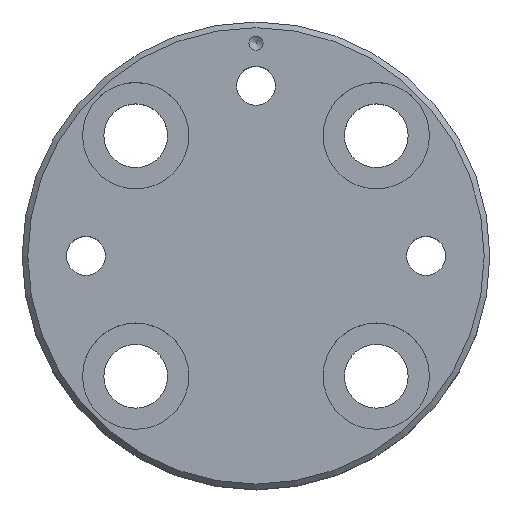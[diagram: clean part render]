
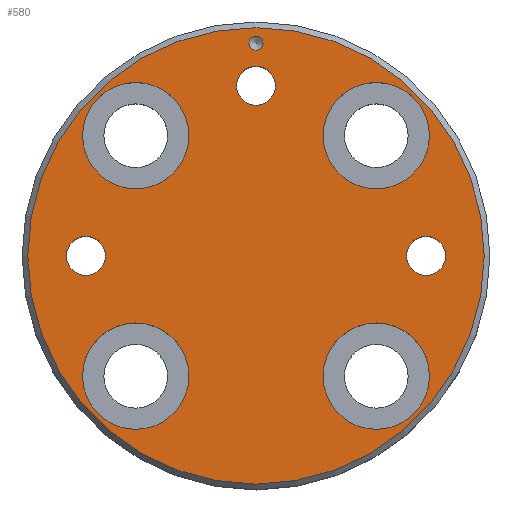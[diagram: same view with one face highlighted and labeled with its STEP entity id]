
A CAD part, top view. The second image highlights one B-rep face of the part: STEP entity #580.
In plain terms, the highlighted planar face has unit normal (0, 0, 1).
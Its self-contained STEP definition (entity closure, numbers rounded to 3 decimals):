
#143=CARTESIAN_POINT('',(24.471,16.971,20.0));
#144=VERTEX_POINT('',#143);
#145=CARTESIAN_POINT('',(16.971,16.971,20.0));
#146=DIRECTION('',(0.0,0.0,-1.0));
#147=DIRECTION('',(1.0,0.0,0.0));
#148=AXIS2_PLACEMENT_3D('',#145,#146,#147);
#149=CIRCLE('',#148,7.5);
#150=EDGE_CURVE('',#144,#144,#149,.T.);
#253=CARTESIAN_POINT('',(-16.971,24.471,20.0));
#254=VERTEX_POINT('',#253);
#255=CARTESIAN_POINT('',(-16.971,16.971,20.0));
#256=DIRECTION('',(0.0,0.0,-1.0));
#257=DIRECTION('',(0.0,1.0,0.0));
#258=AXIS2_PLACEMENT_3D('',#255,#256,#257);
#259=CIRCLE('',#258,7.5);
#260=EDGE_CURVE('',#254,#254,#259,.T.);
#363=CARTESIAN_POINT('',(-24.471,-16.971,20.0));
#364=VERTEX_POINT('',#363);
#365=CARTESIAN_POINT('',(-16.971,-16.971,20.0));
#366=DIRECTION('',(0.0,0.0,-1.0));
#367=DIRECTION('',(-1.0,0.0,0.0));
#368=AXIS2_PLACEMENT_3D('',#365,#366,#367);
#369=CIRCLE('',#368,7.5);
#370=EDGE_CURVE('',#364,#364,#369,.T.);
#473=CARTESIAN_POINT('',(16.971,-24.471,20.0));
#474=VERTEX_POINT('',#473);
#475=CARTESIAN_POINT('',(16.971,-16.971,20.0));
#476=DIRECTION('',(0.0,0.0,-1.0));
#477=DIRECTION('',(0.0,-1.0,0.0));
#478=AXIS2_PLACEMENT_3D('',#475,#476,#477);
#479=CIRCLE('',#478,7.5);
#480=EDGE_CURVE('',#474,#474,#479,.T.);
#508=CARTESIAN_POINT('',(0.0,0.0,20.0));
#509=DIRECTION('',(0.0,0.0,-1.0));
#510=DIRECTION('',(-1.0,0.0,0.0));
#511=AXIS2_PLACEMENT_3D('',#508,#509,#510);
#512=PLANE('',#511);
#513=CARTESIAN_POINT('',(32.2,0.,20.0));
#514=VERTEX_POINT('',#513);
#515=CARTESIAN_POINT('',(0.0,0.0,20.0));
#516=DIRECTION('',(0.0,0.0,-1.0));
#517=DIRECTION('',(-1.0,0.0,0.0));
#518=AXIS2_PLACEMENT_3D('',#515,#516,#517);
#519=CIRCLE('',#518,32.2);
#520=EDGE_CURVE('',#514,#514,#519,.T.);
#521=ORIENTED_EDGE('',*,*,#520,.F.);
#522=EDGE_LOOP('',(#521));
#523=FACE_OUTER_BOUND('',#522,.T.);
#524=CARTESIAN_POINT('',(24.,-2.75,20.0));
#525=VERTEX_POINT('',#524);
#526=CARTESIAN_POINT('',(24.,0.,20.0));
#527=DIRECTION('',(0.0,0.0,-1.0));
#528=DIRECTION('',(0.0,1.0,0.0));
#529=AXIS2_PLACEMENT_3D('',#526,#527,#528);
#530=CIRCLE('',#529,2.75);
#531=EDGE_CURVE('',#525,#525,#530,.T.);
#532=ORIENTED_EDGE('',*,*,#531,.T.);
#533=EDGE_LOOP('',(#532));
#534=FACE_BOUND('',#533,.T.);
#535=CARTESIAN_POINT('',(-24.,2.75,20.0));
#536=VERTEX_POINT('',#535);
#537=CARTESIAN_POINT('',(-24.,0.,20.0));
#538=DIRECTION('',(0.0,0.0,-1.0));
#539=DIRECTION('',(0.0,-1.0,0.0));
#540=AXIS2_PLACEMENT_3D('',#537,#538,#539);
#541=CIRCLE('',#540,2.75);
#542=EDGE_CURVE('',#536,#536,#541,.T.);
#543=ORIENTED_EDGE('',*,*,#542,.T.);
#544=EDGE_LOOP('',(#543));
#545=FACE_BOUND('',#544,.T.);
#546=CARTESIAN_POINT('',(2.75,24.,20.0));
#547=VERTEX_POINT('',#546);
#548=CARTESIAN_POINT('',(0.0,24.,20.0));
#549=DIRECTION('',(0.0,0.0,-1.0));
#550=DIRECTION('',(-1.0,0.0,0.0));
#551=AXIS2_PLACEMENT_3D('',#548,#549,#550);
#552=CIRCLE('',#551,2.75);
#553=EDGE_CURVE('',#547,#547,#552,.T.);
#554=ORIENTED_EDGE('',*,*,#553,.T.);
#555=EDGE_LOOP('',(#554));
#556=FACE_BOUND('',#555,.T.);
#557=CARTESIAN_POINT('',(1.0,30.0,20.0));
#558=VERTEX_POINT('',#557);
#559=CARTESIAN_POINT('',(0.0,30.0,20.0));
#560=DIRECTION('',(0.0,0.0,-1.0));
#561=DIRECTION('',(1.0,0.0,0.0));
#562=AXIS2_PLACEMENT_3D('',#559,#560,#561);
#563=CIRCLE('',#562,1.0);
#564=EDGE_CURVE('',#558,#558,#563,.T.);
#565=ORIENTED_EDGE('',*,*,#564,.T.);
#566=EDGE_LOOP('',(#565));
#567=FACE_BOUND('',#566,.T.);
#568=ORIENTED_EDGE('',*,*,#480,.T.);
#569=EDGE_LOOP('',(#568));
#570=FACE_BOUND('',#569,.T.);
#571=ORIENTED_EDGE('',*,*,#370,.T.);
#572=EDGE_LOOP('',(#571));
#573=FACE_BOUND('',#572,.T.);
#574=ORIENTED_EDGE('',*,*,#260,.T.);
#575=EDGE_LOOP('',(#574));
#576=FACE_BOUND('',#575,.T.);
#577=ORIENTED_EDGE('',*,*,#150,.T.);
#578=EDGE_LOOP('',(#577));
#579=FACE_BOUND('',#578,.T.);
#580=ADVANCED_FACE('',(#523,#534,#545,#556,#567,#570,#573,#576,#579),#512,.F.);
